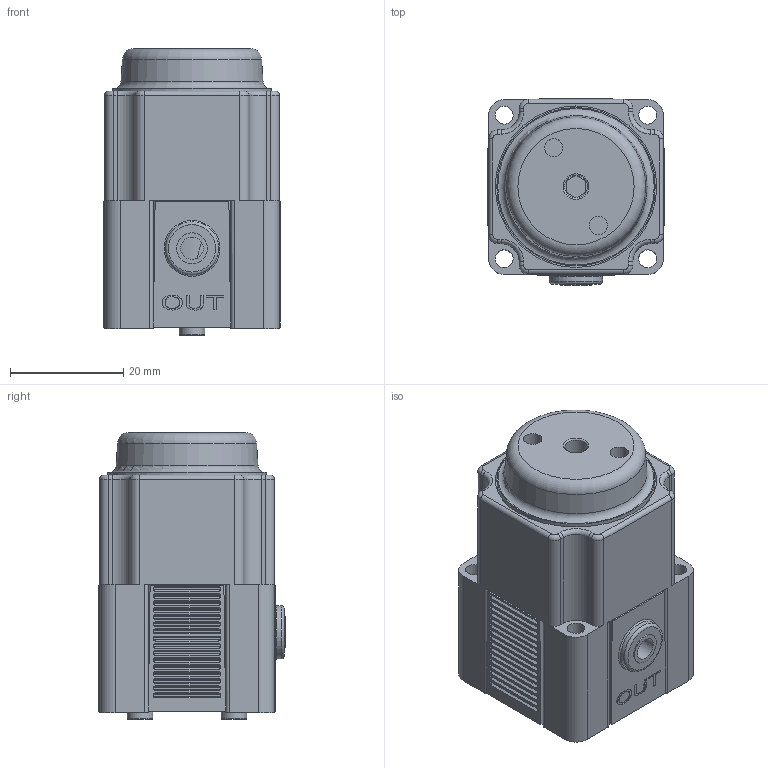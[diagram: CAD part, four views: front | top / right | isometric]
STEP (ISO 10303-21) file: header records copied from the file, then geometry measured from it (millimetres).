
FILE_DESCRIPTION(/* description */ (''),/* implementation_level */ '2;1');
FILE_NAME(/* name */ 'K:\Normteile INVENTOR\Air-Logic\Regulators\PR6000\PR 6___ 0 10-32 UNF Threads Out.igs.ipt.stp',/* time_stamp */ '2020-05-27T10:52:14+02:00',/* author */ ('Paul'),/* organization */ (''),/* preprocessor_version */ 'ST-DEVELOPER v18',/* originating_system */ 'Autodesk Inventor 2020',/* authorisation */ '');
FILE_SCHEMA (('AUTOMOTIVE_DESIGN { 1 0 10303 214 3 1 1 }'));
Length unit declared in the file: inch
Products named in the file (1): PR 6___ 0 10-32 UNF Threads Out.igs
Bounding box: 31.19 x 32.97 x 50.78 mm (x, y, z)
Volume: 38973.5 mm3; surface area: 12726.5 mm2
Topology: 1 solids, 1 shells, 673 faces, 1730 edges, 1138 vertices
Faces by surface type: plane 338, cylinder 269, bspline 32, torus 31, cone 3
Full cylindrical faces by diameter (mm): 1.194 x1, 2.032 x1, 3.124 x2, 3.175 x8, 3.226 x2, 3.962 x1, 4.013 x1, 4.521 x2, 5.486 x1, 6.248 x1, 8.382 x2, 9.169 x1, 9.398 x1, 9.652 x1, 12.903 x1, 25.781 x1, 28.047 x1, 28.575 x1
Entity records: 24196 total; most frequent: CARTESIAN_POINT 6661, DIRECTION 3662, ORIENTED_EDGE 3460, EDGE_CURVE 1730, AXIS2_PLACEMENT_3D 1445, VERTEX_POINT 1138, LINE 772, VECTOR 772
